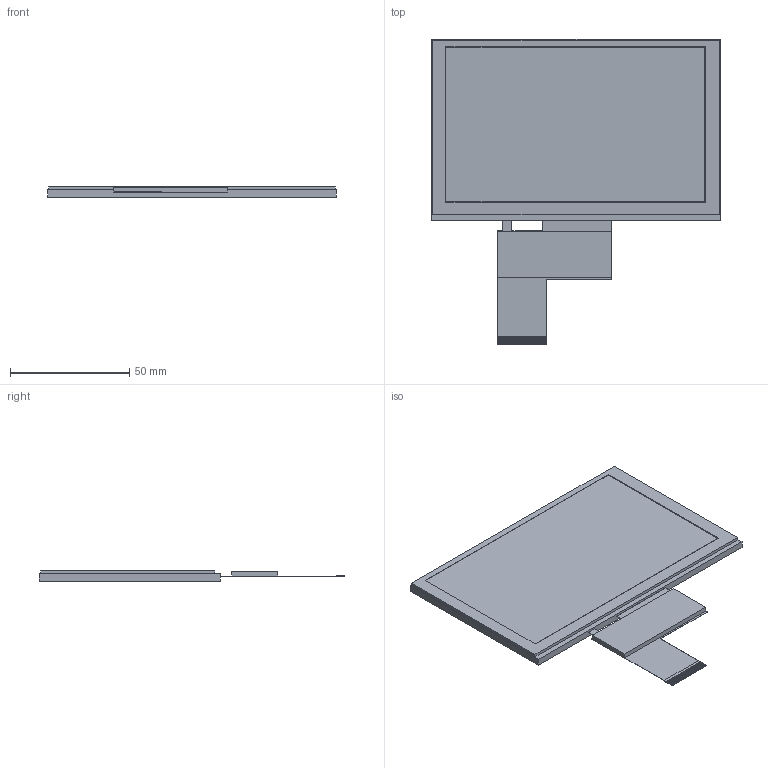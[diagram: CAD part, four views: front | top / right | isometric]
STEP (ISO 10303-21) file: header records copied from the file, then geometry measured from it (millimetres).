
FILE_DESCRIPTION (( 'STEP AP214' ), '1' );
FILE_NAME ('CFAF800480E1-050SR drawing.STEP', '2020-12-08T21:11:16', ( '' ), ( '' ), 'SwSTEP 2.0', 'SolidWorks 2020', '' );
FILE_SCHEMA (( 'AUTOMOTIVE_DESIGN' ));
Length unit declared in the file: millimetre
Products named in the file (1): CFAF800480E1-050SR drawing
Bounding box: 120.7 x 127.8 x 4.2 mm (x, y, z)
Volume: 39956.9 mm3; surface area: 43269.1 mm2
Topology: 45 solids, 45 shells, 280 faces, 573 edges, 384 vertices
Faces by surface type: plane 280
Entity records: 10616 total; most frequent: CARTESIAN_POINT 1238, ORIENTED_EDGE 1146, DIRECTION 1135, VECTOR 573, LINE 573, EDGE_CURVE 573, VERTEX_POINT 384, UNCERTAINTY_MEASURE_WITH_UNIT 318
